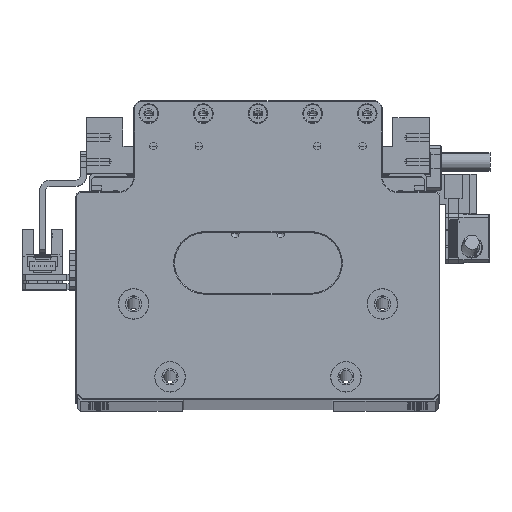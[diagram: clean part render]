
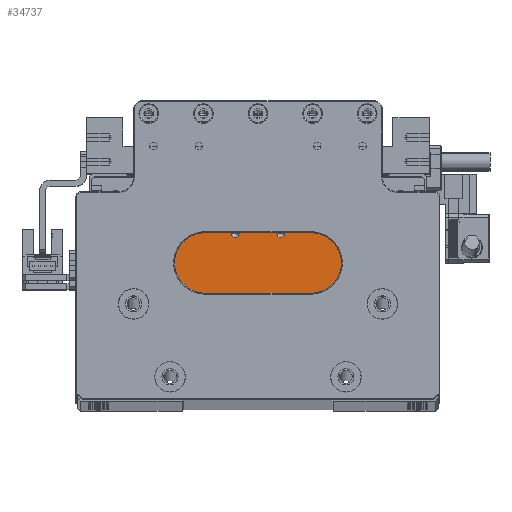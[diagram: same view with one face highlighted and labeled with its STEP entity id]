
A CAD part, top view. The second image highlights one B-rep face of the part: STEP entity #34737.
In plain terms, the highlighted planar face has unit normal (0, 0, 1).
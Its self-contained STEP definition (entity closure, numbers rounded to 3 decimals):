
#1451 = EDGE_CURVE ( 'NONE', #104878, #89970, #94912, .T. ) ;
#3193 = CARTESIAN_POINT ( 'NONE',  ( -7.5, 32.2, 66.894 ) ) ;
#3766 = CARTESIAN_POINT ( 'NONE',  ( -18.5, 40.2, 66.894 ) ) ;
#3783 = ORIENTED_EDGE ( 'NONE', *, *, #110827, .T. ) ;
#4706 = VERTEX_POINT ( 'NONE', #39992 ) ;
#5364 = AXIS2_PLACEMENT_3D ( 'NONE', #43671, #108210, #52866 ) ;
#6373 = CARTESIAN_POINT ( 'NONE',  ( -29.8, 32.2, 66.894 ) ) ;
#7930 = CARTESIAN_POINT ( 'NONE',  ( 0., 40.2, 66.894 ) ) ;
#8115 = CARTESIAN_POINT ( 'NONE',  ( 29.8, 32.2, 66.894 ) ) ;
#10801 = ORIENTED_EDGE ( 'NONE', *, *, #117204, .T. ) ;
#11072 = VERTEX_POINT ( 'NONE', #13833 ) ;
#12357 = VERTEX_POINT ( 'NONE', #106903 ) ;
#12519 = DIRECTION ( 'NONE',  ( 1., 0., 0. ) ) ;
#12956 = VECTOR ( 'NONE', #103797, 1000. ) ;
#13117 = CARTESIAN_POINT ( 'NONE',  ( -8.75, 32.2, 66.894 ) ) ;
#13207 = CARTESIAN_POINT ( 'NONE',  ( 6.25, 32.2, 66.894 ) ) ;
#13833 = CARTESIAN_POINT ( 'NONE',  ( 29.8, 0.2, 66.894 ) ) ;
#15389 = DIRECTION ( 'NONE',  ( 1., 0., 0. ) ) ;
#16752 = DIRECTION ( 'NONE',  ( -1., 0., 0. ) ) ;
#17205 = PLANE ( 'NONE',  #36659 ) ;
#18708 = EDGE_CURVE ( 'NONE', #11072, #43890, #86453, .T. ) ;
#19141 = VERTEX_POINT ( 'NONE', #6373 ) ;
#20180 = ORIENTED_EDGE ( 'NONE', *, *, #24448, .T. ) ;
#20820 = CARTESIAN_POINT ( 'NONE',  ( 29.8, 40.2, 66.894 ) ) ;
#22775 = ORIENTED_EDGE ( 'NONE', *, *, #48804, .T. ) ;
#24448 = EDGE_CURVE ( 'NONE', #28525, #71129, #97981, .T. ) ;
#26010 = CARTESIAN_POINT ( 'NONE',  ( 0., 40., 66.894 ) ) ;
#26444 = DIRECTION ( 'NONE',  ( 1., 0., 0. ) ) ;
#27058 = LINE ( 'NONE', #3766, #51523 ) ;
#28525 = VERTEX_POINT ( 'NONE', #69672 ) ;
#29424 = DIRECTION ( 'NONE',  ( 0., 1., 0. ) ) ;
#31519 = DIRECTION ( 'NONE',  ( 0., 0., -1. ) ) ;
#34589 = CARTESIAN_POINT ( 'NONE',  ( 18.5, 40., 66.894 ) ) ;
#34737 = ADVANCED_FACE ( 'NONE', ( #112342, #63257, #41608 ), #17205, .T. ) ;
#35485 = EDGE_CURVE ( 'NONE', #58109, #4706, #27058, .T. ) ;
#35851 = DIRECTION ( 'NONE',  ( 0., -1., 0. ) ) ;
#36160 = CARTESIAN_POINT ( 'NONE',  ( -6.25, 32.2, 66.894 ) ) ;
#36659 = AXIS2_PLACEMENT_3D ( 'NONE', #7930, #53775, #26444 ) ;
#39992 = CARTESIAN_POINT ( 'NONE',  ( -18.5, 32.2, 66.894 ) ) ;
#40918 = ORIENTED_EDGE ( 'NONE', *, *, #86355, .T. ) ;
#41608 = FACE_BOUND ( 'NONE', #117050, .T. ) ;
#41942 = CARTESIAN_POINT ( 'NONE',  ( -29.8, 0.2, 66.894 ) ) ;
#42868 = VERTEX_POINT ( 'NONE', #13207 ) ;
#43671 = CARTESIAN_POINT ( 'NONE',  ( -7.5, 32.2, 66.894 ) ) ;
#43890 = VERTEX_POINT ( 'NONE', #8115 ) ;
#48804 = EDGE_CURVE ( 'NONE', #71129, #58109, #53470, .T. ) ;
#48853 = VECTOR ( 'NONE', #29424, 1000. ) ;
#49686 = LINE ( 'NONE', #51975, #71390 ) ;
#49802 = CARTESIAN_POINT ( 'NONE',  ( 7.5, 32.2, 66.894 ) ) ;
#51084 = LINE ( 'NONE', #109059, #72770 ) ;
#51225 = ORIENTED_EDGE ( 'NONE', *, *, #118288, .T. ) ;
#51523 = VECTOR ( 'NONE', #104949, 1000. ) ;
#51975 = CARTESIAN_POINT ( 'NONE',  ( -30., 0.2, 66.894 ) ) ;
#52866 = DIRECTION ( 'NONE',  ( 1., 0., 0. ) ) ;
#53213 = EDGE_LOOP ( 'NONE', ( #97269, #40918 ) ) ;
#53470 = LINE ( 'NONE', #26010, #99688 ) ;
#53775 = DIRECTION ( 'NONE',  ( 0., 0., 1. ) ) ;
#54295 = VECTOR ( 'NONE', #69200, 1000. ) ;
#57640 = EDGE_CURVE ( 'NONE', #12357, #42868, #88827, .T. ) ;
#58109 = VERTEX_POINT ( 'NONE', #74738 ) ;
#58648 = AXIS2_PLACEMENT_3D ( 'NONE', #86684, #31519, #95979 ) ;
#58679 = ORIENTED_EDGE ( 'NONE', *, *, #95405, .T. ) ;
#59113 = DIRECTION ( 'NONE',  ( 1., 0., 0. ) ) ;
#59830 = EDGE_LOOP ( 'NONE', ( #22775, #71450, #58679, #3783, #10801, #76017, #51225, #20180 ) ) ;
#63257 = FACE_BOUND ( 'NONE', #53213, .T. ) ;
#65965 = ORIENTED_EDGE ( 'NONE', *, *, #1451, .T. ) ;
#67710 = DIRECTION ( 'NONE',  ( 0., 0., -1. ) ) ;
#69200 = DIRECTION ( 'NONE',  ( -1., 0., 0. ) ) ;
#69672 = CARTESIAN_POINT ( 'NONE',  ( 18.5, 32.2, 66.894 ) ) ;
#71129 = VERTEX_POINT ( 'NONE', #34589 ) ;
#71390 = VECTOR ( 'NONE', #15389, 1000. ) ;
#71450 = ORIENTED_EDGE ( 'NONE', *, *, #35485, .T. ) ;
#72765 = AXIS2_PLACEMENT_3D ( 'NONE', #49802, #114436, #59113 ) ;
#72770 = VECTOR ( 'NONE', #90480, 1000. ) ;
#74623 = AXIS2_PLACEMENT_3D ( 'NONE', #3193, #67710, #12519 ) ;
#74738 = CARTESIAN_POINT ( 'NONE',  ( -18.5, 40., 66.894 ) ) ;
#75991 = CIRCLE ( 'NONE', #5364, 1.25 ) ;
#76017 = ORIENTED_EDGE ( 'NONE', *, *, #18708, .T. ) ;
#76852 = VERTEX_POINT ( 'NONE', #41942 ) ;
#85619 = VECTOR ( 'NONE', #35851, 1000. ) ;
#86355 = EDGE_CURVE ( 'NONE', #42868, #12357, #101450, .T. ) ;
#86453 = LINE ( 'NONE', #20820, #12956 ) ;
#86684 = CARTESIAN_POINT ( 'NONE',  ( 7.5, 32.2, 66.894 ) ) ;
#88827 = CIRCLE ( 'NONE', #72765, 1.25 ) ;
#89970 = VERTEX_POINT ( 'NONE', #13117 ) ;
#90480 = DIRECTION ( 'NONE',  ( -1., 0., 0. ) ) ;
#94912 = CIRCLE ( 'NONE', #74623, 1.25 ) ;
#95405 = EDGE_CURVE ( 'NONE', #4706, #19141, #103378, .T. ) ;
#95910 = ORIENTED_EDGE ( 'NONE', *, *, #108528, .T. ) ;
#95979 = DIRECTION ( 'NONE',  ( 1., 0., 0. ) ) ;
#97269 = ORIENTED_EDGE ( 'NONE', *, *, #57640, .T. ) ;
#97412 = CARTESIAN_POINT ( 'NONE',  ( 0., 32.2, 66.894 ) ) ;
#97981 = LINE ( 'NONE', #103130, #48853 ) ;
#99688 = VECTOR ( 'NONE', #16752, 1000. ) ;
#99924 = CARTESIAN_POINT ( 'NONE',  ( -29.8, 40.2, 66.894 ) ) ;
#101450 = CIRCLE ( 'NONE', #58648, 1.25 ) ;
#103130 = CARTESIAN_POINT ( 'NONE',  ( 18.5, 40.2, 66.894 ) ) ;
#103378 = LINE ( 'NONE', #97412, #54295 ) ;
#103797 = DIRECTION ( 'NONE',  ( 0., 1., 0. ) ) ;
#104878 = VERTEX_POINT ( 'NONE', #36160 ) ;
#104949 = DIRECTION ( 'NONE',  ( 0., -1., 0. ) ) ;
#106903 = CARTESIAN_POINT ( 'NONE',  ( 8.75, 32.2, 66.894 ) ) ;
#108210 = DIRECTION ( 'NONE',  ( 0., 0., -1. ) ) ;
#108528 = EDGE_CURVE ( 'NONE', #89970, #104878, #75991, .T. ) ;
#109059 = CARTESIAN_POINT ( 'NONE',  ( 0., 32.2, 66.894 ) ) ;
#110827 = EDGE_CURVE ( 'NONE', #19141, #76852, #113136, .T. ) ;
#112342 = FACE_OUTER_BOUND ( 'NONE', #59830, .T. ) ;
#113136 = LINE ( 'NONE', #99924, #85619 ) ;
#114436 = DIRECTION ( 'NONE',  ( 0., 0., -1. ) ) ;
#117050 = EDGE_LOOP ( 'NONE', ( #65965, #95910 ) ) ;
#117204 = EDGE_CURVE ( 'NONE', #76852, #11072, #49686, .T. ) ;
#118288 = EDGE_CURVE ( 'NONE', #43890, #28525, #51084, .T. ) ;
